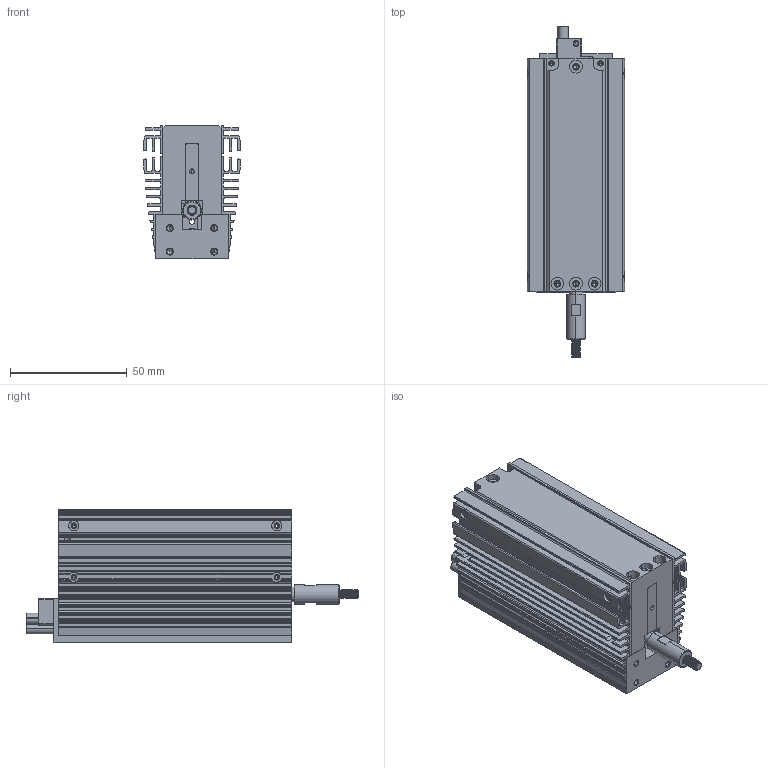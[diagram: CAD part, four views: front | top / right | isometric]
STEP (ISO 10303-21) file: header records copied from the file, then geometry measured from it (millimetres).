
FILE_DESCRIPTION (( 'STEP AP203' ), '1' );
FILE_NAME ('LCA32-012-75-3_F.STEP', '2018-03-12T22:04:12', ( '' ), ( '' ), 'SwSTEP 2.0', 'SolidWorks 2018', '' );
FILE_SCHEMA (( 'CONFIG_CONTROL_DESIGN' ));
Length unit declared in the file: millimetre
Products named in the file (13): 14722-11_C; LCA32-012-75-3, CABLE; 11641-01_A; 24634-03_A; 625009-00_A; 14722-10_B; 90322-05_A STEP; LCA32-012-75-3_F; 16593-01_D; 16593-04_B; 228859-01_A; 24634-01_1; 228852-01_B
Assembly tree (14 placements, depth 3):
  LCA32-012-75-3_F
    11641-01_A
    90322-05_A STEP
      14722-10_B
      14722-11_C
    24634-01_1  x2
    625009-00_A
    228852-01_B
    24634-03_A  x2
    228859-01_A
    LCA32-012-75-3, CABLE
    16593-01_D
    16593-04_B
Bounding box: 41.92 x 142.3 x 57.1 mm (x, y, z)
Volume: 97631.9 mm3; surface area: 103210.4 mm2
Topology: 16 solids, 16 shells, 887 faces, 2533 edges, 1644 vertices
Faces by surface type: plane 396, cylinder 393, cone 93, bspline 5
Entity records: 28155 total; most frequent: CARTESIAN_POINT 8302, ORIENTED_EDGE 3900, DIRECTION 3845, EDGE_CURVE 1950, AXIS2_PLACEMENT_3D 1327, VERTEX_POINT 1274, LINE 1191, VECTOR 1191
